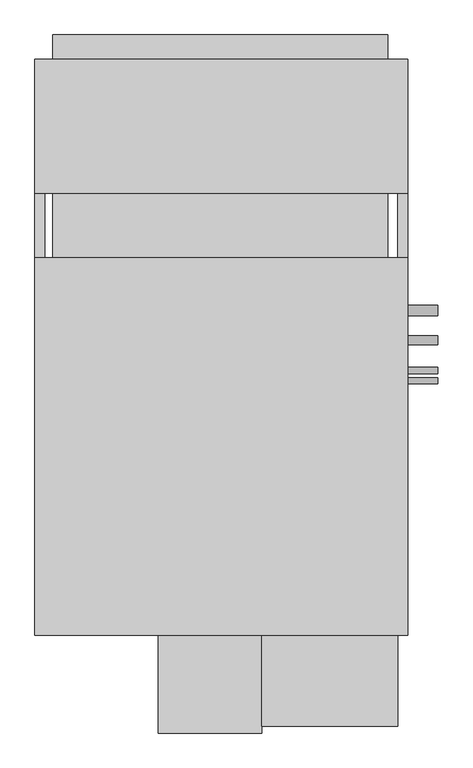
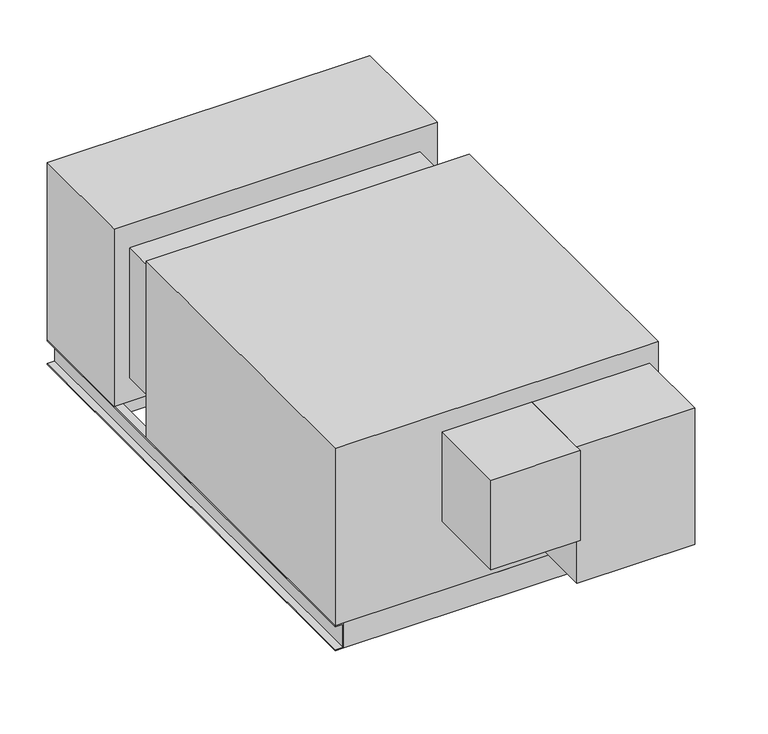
"""IFC4 building model written with IfcOpenShell, lengths in millimetres: proxy geometry, Horizontal_Direct_Drive_Blower_Coil_Unit_-_42DHA_-_CARRIER_-_4-Pipe_NFilterR_W-MixingBox_RH_2022 : Size 10 - 460v/60Hz/3Ph - 6/2 Coil."""

from ifc_helpers import new_model, si_unit, point, frame, frame_2d, origin, place, context, project, spatial, polyline, circle_curve, trimmed, segment, composite_curve, outline, extrude, source, transform, mapped, element, save


def mechanical_equipment_160c7145(model_context):
    return source(origin(), model_context, "Body", "SweptSolid", [
        extrude(outline(polyline([(-177.8, 890.905), (-177.8, 687.705), (-1022.35, 687.705), (-1022.35, 890.905), (-177.8, 890.905)])), frame((0.0, 0.0, -607.06), z_axis=(0.0, 0.0, 1.0), x_axis=(1.0, 0.0, 0.0)), (0.0, 0.0, 1.0), 60.96),
        extrude(outline(polyline([(-1022.35, 1053.465), (-177.8, 1053.465), (-177.8, 992.505), (-1022.35, 992.505), (-1022.35, 1053.465)])), frame((0.0, 0.0, -279.4), z_axis=(0.0, 0.0, 1.0), x_axis=(1.0, 0.0, 0.0)), (0.0, 0.0, 1.0), 203.2),
        extrude(outline(polyline([(-127.0, 992.505), (-127.0, 654.05), (-1066.8, 654.05), (-1066.8, 992.505), (-127.0, 992.505)])), frame((0.0, 0.0, -546.1), z_axis=(0.0, 0.0, 1.0), x_axis=(1.0, 0.0, 0.0)), (0.0, 0.0, 1.0), 546.1),
        extrude(outline(polyline([(-152.4, -434.975), (-152.4, -460.375), (-1041.4, -460.375), (-1041.4, -434.975), (-152.4, -434.975)])), frame((0.0, 0.0, -622.3), z_axis=(0.0, 0.0, 1.0), x_axis=(1.0, 0.0, 0.0)), (0.0, 0.0, 1.0), 76.2),
        extrude(outline(polyline([(-152.4, 992.505), (-152.4, 967.105), (-1041.4, 967.105), (-1041.4, 992.505), (-152.4, 992.505)])), frame((0.0, 0.0, -622.3), z_axis=(0.0, 0.0, 1.0), x_axis=(1.0, 0.0, 0.0)), (0.0, 0.0, 1.0), 76.2),
        extrude(outline(polyline([(-546.1, -1041.4), (-546.1, -1066.8), (-549.275, -1066.8), (-549.275, -1044.575), (-619.125, -1044.575), (-619.125, -1066.8), (-622.3, -1066.8), (-622.3, -1041.4), (-546.1, -1041.4)])), frame((0.0, -460.375, 0.0), z_axis=(0.0, 1.0, 0.0), x_axis=(0.0, 0.0, 1.0)), (0.0, 0.0, 1.0), 1452.88),
        extrude(outline(polyline([(-546.1, -152.4), (-622.3, -152.4), (-622.3, -127.0), (-619.125, -127.0), (-619.125, -149.225), (-549.275, -149.225), (-549.275, -127.0), (-546.1, -127.0), (-546.1, -152.4)])), frame((0.0, -460.375, 0.0), z_axis=(0.0, 1.0, 0.0), x_axis=(0.0, 0.0, 1.0)), (0.0, 0.0, 1.0), 1452.88),
        extrude(outline(composite_curve([segment(trimmed(circle_curve(frame_2d((358.775, -177.8)), 12.7), [point((371.475, -177.8))], [point((346.075, -177.8))], False, "CARTESIAN"), True, "CONTINUOUS"), segment(trimmed(circle_curve(frame_2d((358.775, -177.8)), 12.7), [point((346.075, -177.8))], [point((371.475, -177.8))], False, "CARTESIAN"), True, "CONTINUOUS")], self_intersect=False)), frame((-127.0, 0.0, 0.0), z_axis=(1.0, 0.0, 0.0), x_axis=(0.0, 1.0, 0.0)), (0.0, 0.0, 1.0), 76.2),
        extrude(outline(composite_curve([segment(trimmed(circle_curve(frame_2d((359.642288, -419.1)), 12.7), [point((372.342288, -419.1))], [point((346.942288, -419.1))], False, "CARTESIAN"), True, "CONTINUOUS"), segment(trimmed(circle_curve(frame_2d((359.642288, -419.1)), 12.7), [point((346.942288, -419.1))], [point((372.342288, -419.1))], False, "CARTESIAN"), True, "CONTINUOUS")], self_intersect=False)), frame((-127.0, 0.0, 0.0), z_axis=(1.0, 0.0, 0.0), x_axis=(0.0, 1.0, 0.0)), (0.0, 0.0, 1.0), 76.2),
        extrude(outline(composite_curve([segment(trimmed(circle_curve(frame_2d((283.442288, -501.65)), 11.1125), [point((294.554788, -501.65))], [point((272.329788, -501.65))], False, "CARTESIAN"), True, "CONTINUOUS"), segment(trimmed(circle_curve(frame_2d((283.442288, -501.65)), 11.1125), [point((272.329788, -501.65))], [point((294.554788, -501.65))], False, "CARTESIAN"), True, "CONTINUOUS")], self_intersect=False)), frame((-127.0, 0.0, 0.0), z_axis=(1.0, 0.0, 0.0), x_axis=(0.0, 1.0, 0.0)), (0.0, 0.0, 1.0), 76.2),
        extrude(outline(composite_curve([segment(trimmed(circle_curve(frame_2d((207.242288, -228.6)), 7.9375), [point((215.179788, -228.6))], [point((199.304788, -228.6))], False, "CARTESIAN"), True, "CONTINUOUS"), segment(trimmed(circle_curve(frame_2d((207.242288, -228.6)), 7.9375), [point((199.304788, -228.6))], [point((215.179788, -228.6))], False, "CARTESIAN"), True, "CONTINUOUS")], self_intersect=False)), frame((-127.0, 0.0, 0.0), z_axis=(1.0, 0.0, 0.0), x_axis=(0.0, 1.0, 0.0)), (0.0, 0.0, 1.0), 76.2),
        extrude(outline(composite_curve([segment(trimmed(circle_curve(frame_2d((181.842288, -368.5792556)), 7.9375), [point((189.779788, -368.5792556))], [point((173.904788, -368.5792556))], False, "CARTESIAN"), True, "CONTINUOUS"), segment(trimmed(circle_curve(frame_2d((181.842288, -368.5792556)), 7.9375), [point((173.904788, -368.5792556))], [point((189.779788, -368.5792556))], False, "CARTESIAN"), True, "CONTINUOUS")], self_intersect=False)), frame((-127.0, 0.0, 0.0), z_axis=(1.0, 0.0, 0.0), x_axis=(0.0, 1.0, 0.0)), (0.0, 0.0, 1.0), 76.2),
        extrude(outline(polyline([(-127.0, 492.125), (-127.0, -460.375), (-1066.8, -460.375), (-1066.8, 492.125), (-127.0, 492.125)])), frame((0.0, 0.0, -546.1), z_axis=(0.0, 0.0, 1.0), x_axis=(1.0, 0.0, 0.0)), (0.0, 0.0, 1.0), 546.1),
        extrude(outline(polyline([(-152.4, -688.975), (-495.3, -688.975), (-495.3, -460.375), (-152.4, -460.375), (-152.4, -688.975)])), frame((0.0, 0.0, -476.25), z_axis=(0.0, 0.0, 1.0), x_axis=(1.0, 0.0, 0.0)), (0.0, 0.0, 1.0), 419.1),
        extrude(outline(polyline([(-1022.35, 654.05), (-177.8, 654.05), (-177.8, 492.125), (-1022.35, 492.125), (-1022.35, 654.05)])), frame((0.0, 0.0, -473.075), z_axis=(0.0, 0.0, 1.0), x_axis=(1.0, 0.0, 0.0)), (0.0, 0.0, 1.0), 400.05),
        extrude(outline(polyline([(-495.3, -706.4375), (-755.65, -706.4375), (-755.65, -460.375), (-495.3, -460.375), (-495.3, -706.4375)])), frame((0.0, 0.0, -333.375), z_axis=(0.0, 0.0, 1.0), x_axis=(1.0, 0.0, 0.0)), (0.0, 0.0, 1.0), 276.225),
    ])


if __name__ == "__main__":
    model = new_model("IFC4")
    model_context = context("Model", 3, world=origin())
    ifc_project = project(units=[si_unit("LENGTHUNIT", "METRE", prefix="MILLI")], contexts=[model_context])
    site = spatial("IfcSite", under=ifc_project)
    building = spatial("IfcBuilding", under=site)
    placement = place(None, origin())
    mechanical_equipment_shape = mechanical_equipment_160c7145(model_context)
    element("IfcBuildingElementProxy", 1, Name="Horizontal_Direct_Drive_Blower_Coil_Unit_-_42DHA_-_CARRIER_-_4-Pipe_NFilterR_W-MixingBox_RH_2022 : Size 10 - 460v/60Hz/3Ph - 6/2 Coil", ObjectType="Horizontal_Direct_Drive_Blower_Coil_Unit_-_42DHA_-_CARRIER_-_4-Pipe_NFilterR_W-MixingBox_RH_2022 : Size 10 - 460v/60Hz/3Ph - 6/2 Coil", at=placement, inside=building, context=model_context, shape_type="MappedRepresentation", body=[
        mapped(mechanical_equipment_shape, transform((0.0, 0.0, 0.0), x_axis=(1.0, 0.0, 0.0), y_axis=(0.0, 1.0, 0.0), z_axis=(0.0, 0.0, 1.0))),
    ])
    save(model, "model.ifc")
